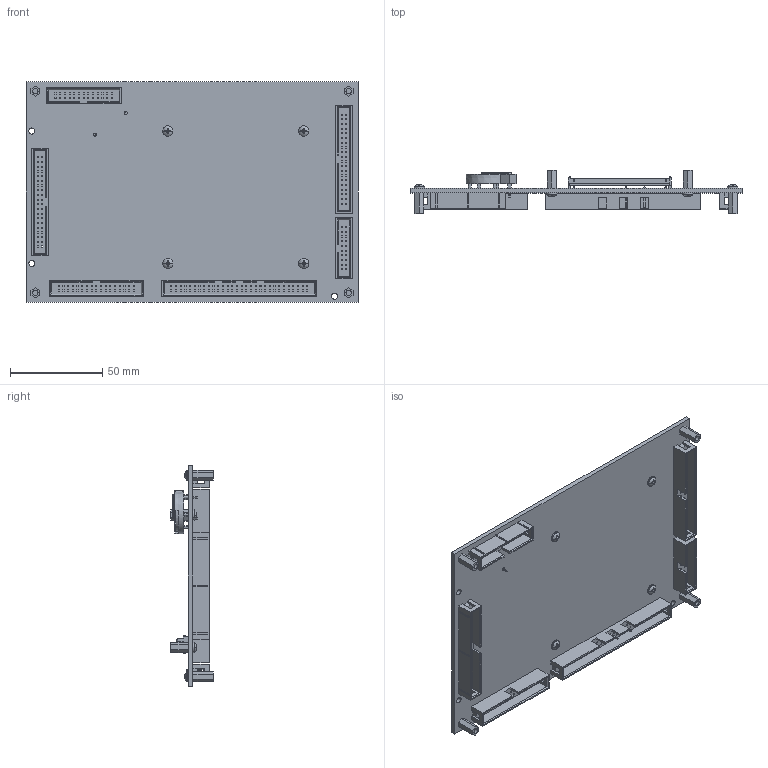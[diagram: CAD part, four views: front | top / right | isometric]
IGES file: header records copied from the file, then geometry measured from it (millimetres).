
Start section:  PTC IGES file: cu_ni-9684.igs
Global section: file name: cu_ni-9684.igs; native system: Creo Parametric by PTC Inc.; preprocessor: 2015380; author: kleong; organization: Unknown; date: 20180323.133810; units: inch
Bounding box: 179.83 x 23.16 x 119.38 mm (x, y, z)
Surface area: 62572.3 mm2 (no closed solid volume)
Topology: 0 solids, 0 shells, 2247 faces, 11288 edges, 11280 vertices
Faces by surface type: bspline 1926, revolution 161, extrusion 160
